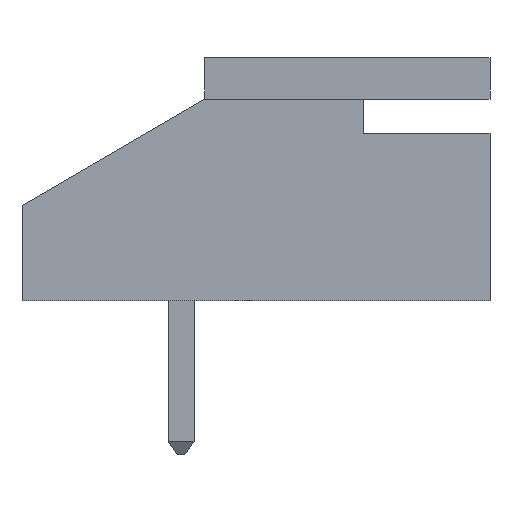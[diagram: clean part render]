
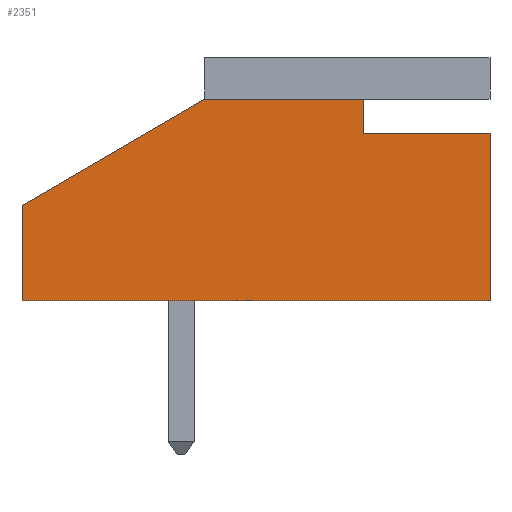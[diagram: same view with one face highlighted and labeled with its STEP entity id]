
A CAD part, left-side view. The second image highlights one B-rep face of the part: STEP entity #2351.
In plain terms, the highlighted planar face has unit normal (-1, 0, 0).
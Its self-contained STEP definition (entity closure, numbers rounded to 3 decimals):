
#2145 = EDGE_CURVE('',#2146,#2148,#2150,.T.);
#2146 = VERTEX_POINT('',#2147);
#2147 = CARTESIAN_POINT('',(-3.708,-0.584,4.966));
#2148 = VERTEX_POINT('',#2149);
#2149 = CARTESIAN_POINT('',(-3.708,3.912,2.35));
#2150 = LINE('',#2151,#2152);
#2151 = CARTESIAN_POINT('',(-3.708,-0.584,4.966));
#2152 = VECTOR('',#2153,1.);
#2153 = DIRECTION('',(0.,0.864,-0.503));
#2183 = EDGE_CURVE('',#2148,#2184,#2186,.T.);
#2184 = VERTEX_POINT('',#2185);
#2185 = CARTESIAN_POINT('',(-3.708,3.912,0.013));
#2186 = LINE('',#2187,#2188);
#2187 = CARTESIAN_POINT('',(-3.708,3.912,2.35));
#2188 = VECTOR('',#2189,1.);
#2189 = DIRECTION('',(0.,0.,-1.));
#2213 = EDGE_CURVE('',#2184,#2214,#2216,.T.);
#2214 = VERTEX_POINT('',#2215);
#2215 = CARTESIAN_POINT('',(-3.708,-7.595,0.013));
#2216 = LINE('',#2217,#2218);
#2217 = CARTESIAN_POINT('',(-3.708,3.912,0.013));
#2218 = VECTOR('',#2219,1.);
#2219 = DIRECTION('',(0.,-1.,0.));
#2243 = EDGE_CURVE('',#2214,#2244,#2246,.T.);
#2244 = VERTEX_POINT('',#2245);
#2245 = CARTESIAN_POINT('',(-3.708,-7.595,4.128));
#2246 = LINE('',#2247,#2248);
#2247 = CARTESIAN_POINT('',(-3.708,-7.595,0.013));
#2248 = VECTOR('',#2249,1.);
#2249 = DIRECTION('',(0.,0.,1.));
#2273 = EDGE_CURVE('',#2244,#2274,#2276,.T.);
#2274 = VERTEX_POINT('',#2275);
#2275 = CARTESIAN_POINT('',(-3.708,-4.496,4.128));
#2276 = LINE('',#2277,#2278);
#2277 = CARTESIAN_POINT('',(-3.708,-7.595,4.128));
#2278 = VECTOR('',#2279,1.);
#2279 = DIRECTION('',(0.,1.,0.));
#2303 = EDGE_CURVE('',#2274,#2304,#2306,.T.);
#2304 = VERTEX_POINT('',#2305);
#2305 = CARTESIAN_POINT('',(-3.708,-4.496,4.966));
#2306 = LINE('',#2307,#2308);
#2307 = CARTESIAN_POINT('',(-3.708,-4.496,4.128));
#2308 = VECTOR('',#2309,1.);
#2309 = DIRECTION('',(0.,0.,1.));
#2333 = EDGE_CURVE('',#2304,#2146,#2334,.T.);
#2334 = LINE('',#2335,#2336);
#2335 = CARTESIAN_POINT('',(-3.708,-4.496,4.966));
#2336 = VECTOR('',#2337,1.);
#2337 = DIRECTION('',(0.,1.,0.));
#2351 = ADVANCED_FACE('',(#2352),#2361,.F.);
#2352 = FACE_BOUND('',#2353,.T.);
#2353 = EDGE_LOOP('',(#2354,#2355,#2356,#2357,#2358,#2359,#2360));
#2354 = ORIENTED_EDGE('',*,*,#2145,.T.);
#2355 = ORIENTED_EDGE('',*,*,#2183,.T.);
#2356 = ORIENTED_EDGE('',*,*,#2213,.T.);
#2357 = ORIENTED_EDGE('',*,*,#2243,.T.);
#2358 = ORIENTED_EDGE('',*,*,#2273,.T.);
#2359 = ORIENTED_EDGE('',*,*,#2303,.T.);
#2360 = ORIENTED_EDGE('',*,*,#2333,.T.);
#2361 = PLANE('',#2362);
#2362 = AXIS2_PLACEMENT_3D('',#2363,#2364,#2365);
#2363 = CARTESIAN_POINT('',(-3.708,-0.584,4.966));
#2364 = DIRECTION('',(1.,0.,0.));
#2365 = DIRECTION('',(0.,-0.817,-0.577));
